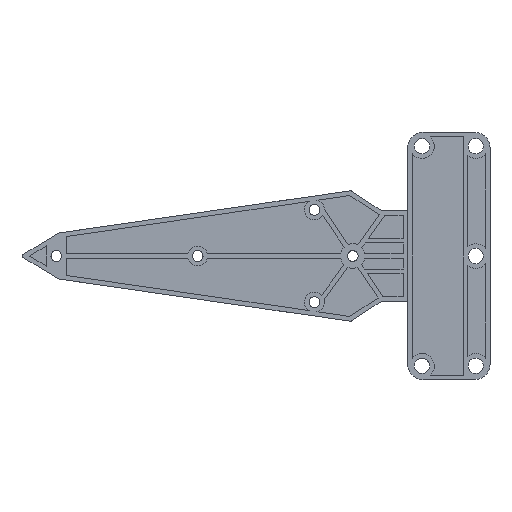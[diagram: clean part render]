
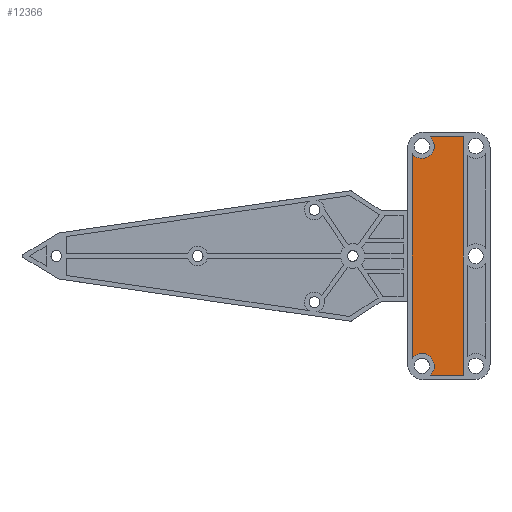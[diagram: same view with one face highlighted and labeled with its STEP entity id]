
A CAD part, front view. The second image highlights one B-rep face of the part: STEP entity #12366.
In plain terms, the highlighted planar face has unit normal (0, -1, 0).
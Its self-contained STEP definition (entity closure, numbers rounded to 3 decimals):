
#1034 = CIRCLE ( 'NONE', #15252, 8. ) ;
#1535 = DIRECTION ( 'NONE',  ( 0., 1., 0. ) ) ;
#1769 = PLANE ( 'NONE',  #22599 ) ;
#1790 = VECTOR ( 'NONE', #18438, 1000. ) ;
#2194 = CARTESIAN_POINT ( 'NONE',  ( -23.8, 1., 66.569 ) ) ;
#2461 = ORIENTED_EDGE ( 'NONE', *, *, #12302, .T. ) ;
#3252 = CARTESIAN_POINT ( 'NONE',  ( 9.3, 1., -71.5 ) ) ;
#3652 = DIRECTION ( 'NONE',  ( 0., -1., 0. ) ) ;
#4043 = DIRECTION ( 'NONE',  ( 0., 0., -1. ) ) ;
#4534 = CARTESIAN_POINT ( 'NONE',  ( -17.5, 1., -71.5 ) ) ;
#5116 = DIRECTION ( 'NONE',  ( 0., 0., 1. ) ) ;
#5227 = CARTESIAN_POINT ( 'NONE',  ( 9.3, 1., -77.5 ) ) ;
#5838 = CARTESIAN_POINT ( 'NONE',  ( -17.5, 1., 71.5 ) ) ;
#6131 = EDGE_LOOP ( 'NONE', ( #9575, #20733, #12406, #17228, #2461, #19238, #13311 ) ) ;
#6144 = LINE ( 'NONE', #3252, #15307 ) ;
#6170 = LINE ( 'NONE', #2194, #15333 ) ;
#6177 = VERTEX_POINT ( 'NONE', #18877 ) ;
#6278 = VERTEX_POINT ( 'NONE', #13724 ) ;
#6378 = DIRECTION ( 'NONE',  ( 0., 0., -1. ) ) ;
#7518 = CARTESIAN_POINT ( 'NONE',  ( -12.208, 1., -77.5 ) ) ;
#7709 = DIRECTION ( 'NONE',  ( 0., 0., -1. ) ) ;
#8136 = VERTEX_POINT ( 'NONE', #23076 ) ;
#9575 = ORIENTED_EDGE ( 'NONE', *, *, #21990, .T. ) ;
#9757 = LINE ( 'NONE', #10403, #14063 ) ;
#10403 = CARTESIAN_POINT ( 'NONE',  ( 12.208, 1., 77.5 ) ) ;
#10768 = VERTEX_POINT ( 'NONE', #20049 ) ;
#12302 = EDGE_CURVE ( 'NONE', #8136, #21637, #1034, .T. ) ;
#12366 = ADVANCED_FACE ( 'NONE', ( #13951 ), #1769, .T. ) ;
#12406 = ORIENTED_EDGE ( 'NONE', *, *, #23681, .T. ) ;
#12536 = CARTESIAN_POINT ( 'NONE',  ( -17.5, 1., 71.5 ) ) ;
#12766 = CARTESIAN_POINT ( 'NONE',  ( -17.5, 1., -71.5 ) ) ;
#13311 = ORIENTED_EDGE ( 'NONE', *, *, #19492, .T. ) ;
#13724 = CARTESIAN_POINT ( 'NONE',  ( -12.208, 1., 77.5 ) ) ;
#13951 = FACE_OUTER_BOUND ( 'NONE', #6131, .T. ) ;
#14063 = VECTOR ( 'NONE', #21331, 1000. ) ;
#14358 = DIRECTION ( 'NONE',  ( 0., 0., -1. ) ) ;
#15252 = AXIS2_PLACEMENT_3D ( 'NONE', #12536, #1535, #14358 ) ;
#15307 = VECTOR ( 'NONE', #5116, 1000. ) ;
#15333 = VECTOR ( 'NONE', #4043, 1000. ) ;
#15351 = CARTESIAN_POINT ( 'NONE',  ( 9.3, 1., 77.5 ) ) ;
#15986 = AXIS2_PLACEMENT_3D ( 'NONE', #4534, #17314, #6378 ) ;
#16429 = DIRECTION ( 'NONE',  ( 0., 0., -1. ) ) ;
#16803 = VERTEX_POINT ( 'NONE', #15351 ) ;
#17228 = ORIENTED_EDGE ( 'NONE', *, *, #20063, .T. ) ;
#17314 = DIRECTION ( 'NONE',  ( 0., 1., 0. ) ) ;
#17346 = CARTESIAN_POINT ( 'NONE',  ( -23.8, 1., 66.569 ) ) ;
#18438 = DIRECTION ( 'NONE',  ( 1., 0., 0. ) ) ;
#18613 = DIRECTION ( 'NONE',  ( 0., 1., 0. ) ) ;
#18877 = CARTESIAN_POINT ( 'NONE',  ( -23.8, 1., -66.569 ) ) ;
#19238 = ORIENTED_EDGE ( 'NONE', *, *, #19700, .T. ) ;
#19492 = EDGE_CURVE ( 'NONE', #6177, #10768, #19909, .T. ) ;
#19700 = EDGE_CURVE ( 'NONE', #21637, #6177, #6170, .T. ) ;
#19909 = CIRCLE ( 'NONE', #15986, 8. ) ;
#20049 = CARTESIAN_POINT ( 'NONE',  ( -12.208, 1., -77.5 ) ) ;
#20063 = EDGE_CURVE ( 'NONE', #6278, #8136, #23594, .T. ) ;
#20177 = EDGE_CURVE ( 'NONE', #23136, #16803, #6144, .T. ) ;
#20733 = ORIENTED_EDGE ( 'NONE', *, *, #20177, .T. ) ;
#21164 = AXIS2_PLACEMENT_3D ( 'NONE', #5838, #18613, #7709 ) ;
#21331 = DIRECTION ( 'NONE',  ( -1., 0., 0. ) ) ;
#21637 = VERTEX_POINT ( 'NONE', #17346 ) ;
#21990 = EDGE_CURVE ( 'NONE', #10768, #23136, #22383, .T. ) ;
#22383 = LINE ( 'NONE', #7518, #1790 ) ;
#22599 = AXIS2_PLACEMENT_3D ( 'NONE', #12766, #3652, #16429 ) ;
#23076 = CARTESIAN_POINT ( 'NONE',  ( -17.5, 1., 63.5 ) ) ;
#23136 = VERTEX_POINT ( 'NONE', #5227 ) ;
#23594 = CIRCLE ( 'NONE', #21164, 8. ) ;
#23681 = EDGE_CURVE ( 'NONE', #16803, #6278, #9757, .T. ) ;
